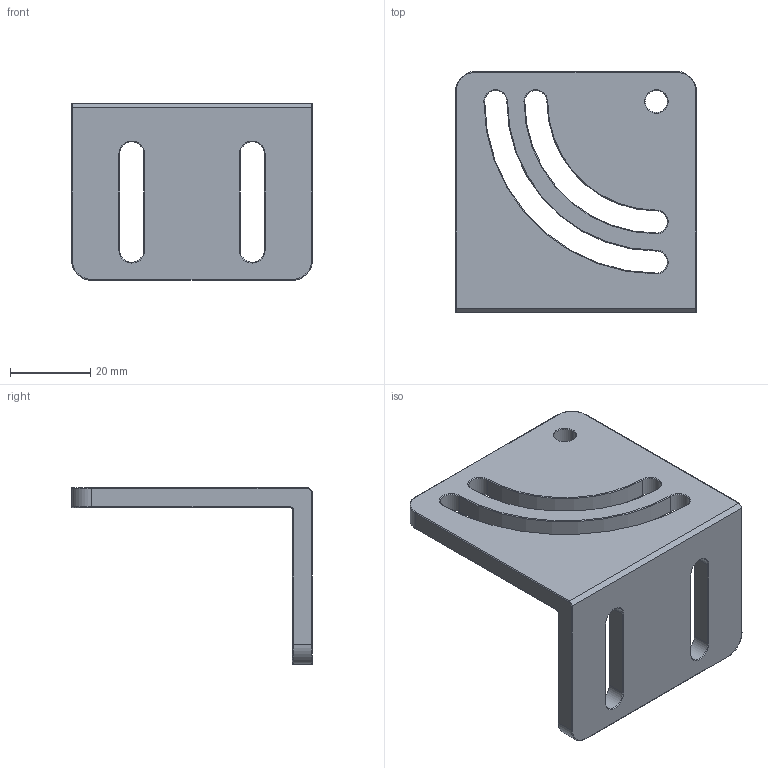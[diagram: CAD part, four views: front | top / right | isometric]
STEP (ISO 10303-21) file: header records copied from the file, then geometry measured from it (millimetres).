
FILE_DESCRIPTION (( 'STEP AP214' ), '1' );
FILE_NAME ('7.Y00868(R).STEP', '2020-11-27T02:55:11', ( '微软用户' ), ( '微软中国' ), 'SwSTEP 2.0', 'SolidWorks 2018', '' );
FILE_SCHEMA (( 'AUTOMOTIVE_DESIGN' ));
Length unit declared in the file: millimetre
Products named in the file (1): 7.Y00868(R)
Bounding box: 60 x 60 x 44 mm (x, y, z)
Volume: 24441.4 mm3; surface area: 13173.8 mm2
Topology: 1 solids, 1 shells, 98 faces, 228 edges, 132 vertices
Faces by surface type: cone 34, cylinder 33, plane 21, torus 10
Entity records: 2814 total; most frequent: DIRECTION 530, CARTESIAN_POINT 471, ORIENTED_EDGE 456, EDGE_CURVE 228, AXIS2_PLACEMENT_3D 207, VERTEX_POINT 132, VECTOR 116, LINE 116
